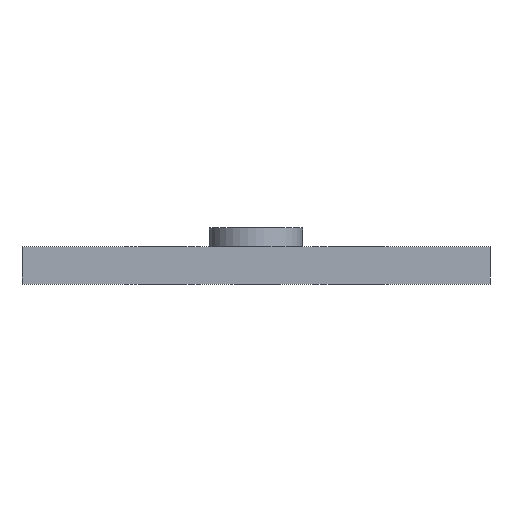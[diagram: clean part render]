
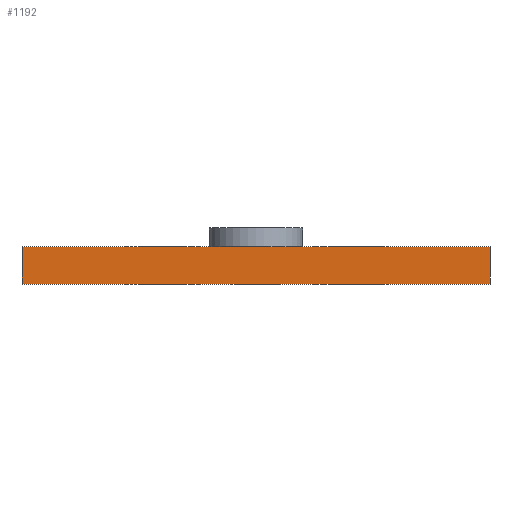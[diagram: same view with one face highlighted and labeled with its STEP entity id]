
A CAD part, front view. The second image highlights one B-rep face of the part: STEP entity #1192.
In plain terms, the highlighted planar face has unit normal (0, -1, 0).
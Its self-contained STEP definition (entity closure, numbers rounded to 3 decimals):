
#21 = EDGE_CURVE('',#22,#24,#26,.T.);
#22 = VERTEX_POINT('',#23);
#23 = CARTESIAN_POINT('',(0.,0.,0.));
#24 = VERTEX_POINT('',#25);
#25 = CARTESIAN_POINT('',(0.,0.,4.));
#26 = SURFACE_CURVE('',#27,(#31,#43),.PCURVE_S1.);
#27 = LINE('',#28,#29);
#28 = CARTESIAN_POINT('',(0.,0.,0.));
#29 = VECTOR('',#30,1.);
#30 = DIRECTION('',(0.,0.,1.));
#31 = PCURVE('',#32,#37);
#32 = PLANE('',#33);
#33 = AXIS2_PLACEMENT_3D('',#34,#35,#36);
#34 = CARTESIAN_POINT('',(0.,0.,0.));
#35 = DIRECTION('',(1.,0.,0.));
#36 = DIRECTION('',(0.,0.,1.));
#37 = DEFINITIONAL_REPRESENTATION('',(#38),#42);
#38 = LINE('',#39,#40);
#39 = CARTESIAN_POINT('',(0.,0.));
#40 = VECTOR('',#41,1.);
#41 = DIRECTION('',(1.,0.));
#42 = ( GEOMETRIC_REPRESENTATION_CONTEXT(2) 
PARAMETRIC_REPRESENTATION_CONTEXT() REPRESENTATION_CONTEXT('2D SPACE',''
  ) );
#43 = PCURVE('',#44,#49);
#44 = PLANE('',#45);
#45 = AXIS2_PLACEMENT_3D('',#46,#47,#48);
#46 = CARTESIAN_POINT('',(0.,0.,0.));
#47 = DIRECTION('',(0.,1.,0.));
#48 = DIRECTION('',(0.,0.,1.));
#49 = DEFINITIONAL_REPRESENTATION('',(#50),#54);
#50 = LINE('',#51,#52);
#51 = CARTESIAN_POINT('',(0.,0.));
#52 = VECTOR('',#53,1.);
#53 = DIRECTION('',(1.,0.));
#54 = ( GEOMETRIC_REPRESENTATION_CONTEXT(2) 
PARAMETRIC_REPRESENTATION_CONTEXT() REPRESENTATION_CONTEXT('2D SPACE',''
  ) );
#72 = PLANE('',#73);
#73 = AXIS2_PLACEMENT_3D('',#74,#75,#76);
#74 = CARTESIAN_POINT('',(0.,0.,0.));
#75 = DIRECTION('',(0.,0.,1.));
#76 = DIRECTION('',(1.,0.,0.));
#126 = PLANE('',#127);
#127 = AXIS2_PLACEMENT_3D('',#128,#129,#130);
#128 = CARTESIAN_POINT('',(0.,0.,4.));
#129 = DIRECTION('',(0.,0.,1.));
#130 = DIRECTION('',(1.,0.,0.));
#142 = EDGE_CURVE('',#22,#143,#145,.T.);
#143 = VERTEX_POINT('',#144);
#144 = CARTESIAN_POINT('',(50.,0.,0.));
#145 = SURFACE_CURVE('',#146,(#150,#157),.PCURVE_S1.);
#146 = LINE('',#147,#148);
#147 = CARTESIAN_POINT('',(0.,0.,0.));
#148 = VECTOR('',#149,1.);
#149 = DIRECTION('',(1.,0.,0.));
#150 = PCURVE('',#72,#151);
#151 = DEFINITIONAL_REPRESENTATION('',(#152),#156);
#152 = LINE('',#153,#154);
#153 = CARTESIAN_POINT('',(0.,0.));
#154 = VECTOR('',#155,1.);
#155 = DIRECTION('',(1.,0.));
#156 = ( GEOMETRIC_REPRESENTATION_CONTEXT(2) 
PARAMETRIC_REPRESENTATION_CONTEXT() REPRESENTATION_CONTEXT('2D SPACE',''
  ) );
#157 = PCURVE('',#44,#158);
#158 = DEFINITIONAL_REPRESENTATION('',(#159),#163);
#159 = LINE('',#160,#161);
#160 = CARTESIAN_POINT('',(0.,0.));
#161 = VECTOR('',#162,1.);
#162 = DIRECTION('',(0.,1.));
#163 = ( GEOMETRIC_REPRESENTATION_CONTEXT(2) 
PARAMETRIC_REPRESENTATION_CONTEXT() REPRESENTATION_CONTEXT('2D SPACE',''
  ) );
#181 = PLANE('',#182);
#182 = AXIS2_PLACEMENT_3D('',#183,#184,#185);
#183 = CARTESIAN_POINT('',(50.,0.,0.));
#184 = DIRECTION('',(1.,0.,0.));
#185 = DIRECTION('',(0.,0.,1.));
#1056 = EDGE_CURVE('',#143,#1057,#1059,.T.);
#1057 = VERTEX_POINT('',#1058);
#1058 = CARTESIAN_POINT('',(50.,0.,4.));
#1059 = SURFACE_CURVE('',#1060,(#1064,#1071),.PCURVE_S1.);
#1060 = LINE('',#1061,#1062);
#1061 = CARTESIAN_POINT('',(50.,0.,0.));
#1062 = VECTOR('',#1063,1.);
#1063 = DIRECTION('',(0.,0.,1.));
#1064 = PCURVE('',#181,#1065);
#1065 = DEFINITIONAL_REPRESENTATION('',(#1066),#1070);
#1066 = LINE('',#1067,#1068);
#1067 = CARTESIAN_POINT('',(0.,0.));
#1068 = VECTOR('',#1069,1.);
#1069 = DIRECTION('',(1.,0.));
#1070 = ( GEOMETRIC_REPRESENTATION_CONTEXT(2) 
PARAMETRIC_REPRESENTATION_CONTEXT() REPRESENTATION_CONTEXT('2D SPACE',''
  ) );
#1071 = PCURVE('',#44,#1072);
#1072 = DEFINITIONAL_REPRESENTATION('',(#1073),#1077);
#1073 = LINE('',#1074,#1075);
#1074 = CARTESIAN_POINT('',(0.,50.));
#1075 = VECTOR('',#1076,1.);
#1076 = DIRECTION('',(1.,0.));
#1077 = ( GEOMETRIC_REPRESENTATION_CONTEXT(2) 
PARAMETRIC_REPRESENTATION_CONTEXT() REPRESENTATION_CONTEXT('2D SPACE',''
  ) );
#1155 = EDGE_CURVE('',#24,#1057,#1156,.T.);
#1156 = SURFACE_CURVE('',#1157,(#1161,#1168),.PCURVE_S1.);
#1157 = LINE('',#1158,#1159);
#1158 = CARTESIAN_POINT('',(0.,0.,4.));
#1159 = VECTOR('',#1160,1.);
#1160 = DIRECTION('',(1.,0.,0.));
#1161 = PCURVE('',#126,#1162);
#1162 = DEFINITIONAL_REPRESENTATION('',(#1163),#1167);
#1163 = LINE('',#1164,#1165);
#1164 = CARTESIAN_POINT('',(0.,0.));
#1165 = VECTOR('',#1166,1.);
#1166 = DIRECTION('',(1.,0.));
#1167 = ( GEOMETRIC_REPRESENTATION_CONTEXT(2) 
PARAMETRIC_REPRESENTATION_CONTEXT() REPRESENTATION_CONTEXT('2D SPACE',''
  ) );
#1168 = PCURVE('',#44,#1169);
#1169 = DEFINITIONAL_REPRESENTATION('',(#1170),#1174);
#1170 = LINE('',#1171,#1172);
#1171 = CARTESIAN_POINT('',(4.,0.));
#1172 = VECTOR('',#1173,1.);
#1173 = DIRECTION('',(0.,1.));
#1174 = ( GEOMETRIC_REPRESENTATION_CONTEXT(2) 
PARAMETRIC_REPRESENTATION_CONTEXT() REPRESENTATION_CONTEXT('2D SPACE',''
  ) );
#1192 = ADVANCED_FACE('',(#1193),#44,.F.);
#1193 = FACE_BOUND('',#1194,.F.);
#1194 = EDGE_LOOP('',(#1195,#1196,#1197,#1198));
#1195 = ORIENTED_EDGE('',*,*,#142,.F.);
#1196 = ORIENTED_EDGE('',*,*,#21,.T.);
#1197 = ORIENTED_EDGE('',*,*,#1155,.T.);
#1198 = ORIENTED_EDGE('',*,*,#1056,.F.);
